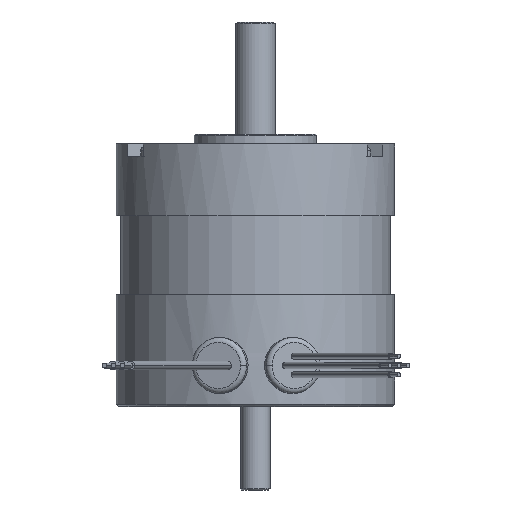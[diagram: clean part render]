
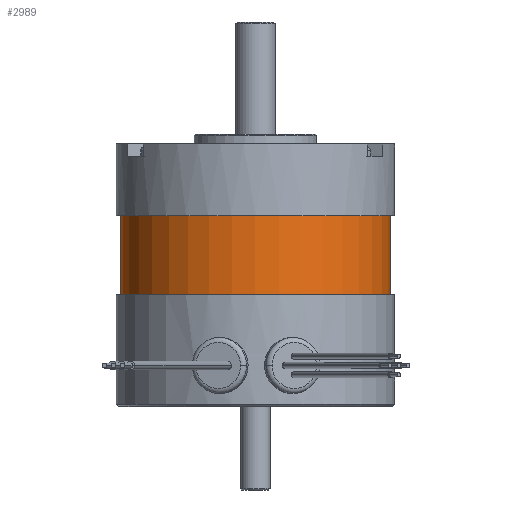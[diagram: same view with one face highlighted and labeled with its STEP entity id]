
A CAD part, front view. The second image highlights one B-rep face of the part: STEP entity #2989.
In plain terms, the highlighted cylindrical face has radius 27.495 mm (diameter 54.991 mm), a partial arc.
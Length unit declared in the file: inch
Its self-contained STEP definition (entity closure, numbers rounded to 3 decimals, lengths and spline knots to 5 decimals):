
#408 = FACE_OUTER_BOUND ( 'NONE', #1933, .T. ) ;
#540 = CIRCLE ( 'NONE', #10573, 1.0825 ) ;
#569 = ORIENTED_EDGE ( 'NONE', *, *, #5737, .F. ) ;
#1650 = VECTOR ( 'NONE', #12575, 39.37008 ) ;
#1933 = EDGE_LOOP ( 'NONE', ( #569, #8982, #9161, #8370 ) ) ;
#2790 = DIRECTION ( 'NONE',  ( 0., 0., 1. ) ) ;
#2989 = ADVANCED_FACE ( 'NONE', ( #408 ), #13051, .T. ) ;
#3189 = CARTESIAN_POINT ( 'NONE',  ( 1.0825, 0., -1.21 ) ) ;
#3239 = LINE ( 'NONE', #6278, #8729 ) ;
#3903 = CARTESIAN_POINT ( 'NONE',  ( 0., 0., -0.575 ) ) ;
#4697 = AXIS2_PLACEMENT_3D ( 'NONE', #11684, #2790, #11710 ) ;
#4825 = DIRECTION ( 'NONE',  ( 0., 0., -1. ) ) ;
#5002 = DIRECTION ( 'NONE',  ( -1., 0., 0. ) ) ;
#5186 = VERTEX_POINT ( 'NONE', #8811 ) ;
#5737 = EDGE_CURVE ( 'NONE', #5186, #13578, #7887, .T. ) ;
#5787 = EDGE_CURVE ( 'NONE', #5850, #9484, #3239, .T. ) ;
#5850 = VERTEX_POINT ( 'NONE', #3189 ) ;
#6278 = CARTESIAN_POINT ( 'NONE',  ( 1.0825, 0., -1.21 ) ) ;
#6864 = AXIS2_PLACEMENT_3D ( 'NONE', #3903, #11369, #5002 ) ;
#6927 = CIRCLE ( 'NONE', #6864, 1.0825 ) ;
#7887 = LINE ( 'NONE', #11522, #1650 ) ;
#8223 = EDGE_CURVE ( 'NONE', #9484, #13578, #6927, .T. ) ;
#8370 = ORIENTED_EDGE ( 'NONE', *, *, #8223, .T. ) ;
#8729 = VECTOR ( 'NONE', #10603, 39.37008 ) ;
#8811 = CARTESIAN_POINT ( 'NONE',  ( -1.0825, 0., -1.21 ) ) ;
#8982 = ORIENTED_EDGE ( 'NONE', *, *, #12216, .F. ) ;
#9161 = ORIENTED_EDGE ( 'NONE', *, *, #5787, .T. ) ;
#9484 = VERTEX_POINT ( 'NONE', #13619 ) ;
#10471 = CARTESIAN_POINT ( 'NONE',  ( -1.0825, 0., -0.575 ) ) ;
#10573 = AXIS2_PLACEMENT_3D ( 'NONE', #11200, #4825, #12243 ) ;
#10603 = DIRECTION ( 'NONE',  ( 0., 0., 1. ) ) ;
#11200 = CARTESIAN_POINT ( 'NONE',  ( 0., 0., -1.21 ) ) ;
#11369 = DIRECTION ( 'NONE',  ( 0., 0., -1. ) ) ;
#11522 = CARTESIAN_POINT ( 'NONE',  ( -1.0825, 0., -1.21 ) ) ;
#11684 = CARTESIAN_POINT ( 'NONE',  ( 0., 0., -1.21 ) ) ;
#11710 = DIRECTION ( 'NONE',  ( 1., 0., 0. ) ) ;
#12216 = EDGE_CURVE ( 'NONE', #5850, #5186, #540, .T. ) ;
#12243 = DIRECTION ( 'NONE',  ( -1., 0., 0. ) ) ;
#12575 = DIRECTION ( 'NONE',  ( 0., 0., 1. ) ) ;
#13051 = CYLINDRICAL_SURFACE ( 'NONE', #4697, 1.0825 ) ;
#13578 = VERTEX_POINT ( 'NONE', #10471 ) ;
#13619 = CARTESIAN_POINT ( 'NONE',  ( 1.0825, 0., -0.575 ) ) ;
